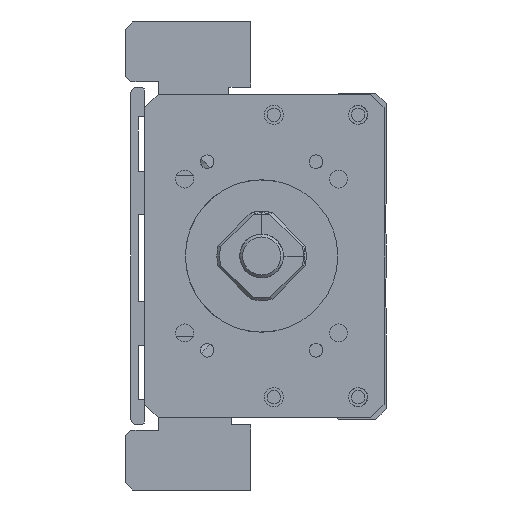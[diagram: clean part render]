
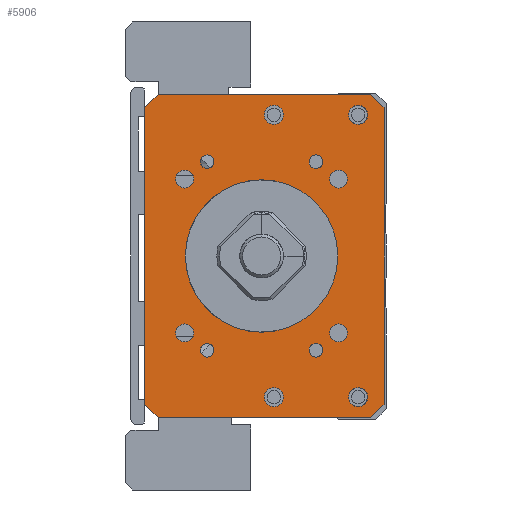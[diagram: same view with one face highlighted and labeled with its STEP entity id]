
A CAD part, left-side view. The second image highlights one B-rep face of the part: STEP entity #5906.
In plain terms, the highlighted planar face has unit normal (-1, 0, 0).
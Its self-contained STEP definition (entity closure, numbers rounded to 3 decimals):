
#4385=FACE_BOUND('',#7420,.T.);
#4386=FACE_BOUND('',#7421,.T.);
#4387=FACE_BOUND('',#7422,.T.);
#4388=FACE_BOUND('',#7423,.T.);
#4389=FACE_BOUND('',#7424,.T.);
#4390=FACE_BOUND('',#7425,.T.);
#4391=FACE_BOUND('',#7426,.T.);
#4392=FACE_BOUND('',#7427,.T.);
#4393=FACE_BOUND('',#7428,.T.);
#4394=FACE_BOUND('',#7429,.T.);
#4395=FACE_BOUND('',#7430,.T.);
#4396=FACE_BOUND('',#7431,.T.);
#4397=FACE_BOUND('',#7432,.T.);
#4398=FACE_BOUND('',#7433,.T.);
#4928=CIRCLE('',#16683,14.);
#4937=CIRCLE('',#16694,1.65);
#4938=CIRCLE('',#16695,1.65);
#4939=CIRCLE('',#16696,1.65);
#4940=CIRCLE('',#16697,1.65);
#4941=CIRCLE('',#16698,1.25);
#4942=CIRCLE('',#16699,1.75);
#4943=CIRCLE('',#16700,1.25);
#4944=CIRCLE('',#16701,1.75);
#4945=CIRCLE('',#16702,1.25);
#4946=CIRCLE('',#16703,1.75);
#4947=CIRCLE('',#16704,1.75);
#4948=CIRCLE('',#16705,1.25);
#5325=PLANE('',#16706);
#5906=ADVANCED_FACE('',(#4385,#4386,#4387,#4388,#4389,#4390,#4391,#4392,
#4393,#4394,#4395,#4396,#4397,#4398),#5325,.F.);
#7420=EDGE_LOOP('',(#9034));
#7421=EDGE_LOOP('',(#9035));
#7422=EDGE_LOOP('',(#9036));
#7423=EDGE_LOOP('',(#9037));
#7424=EDGE_LOOP('',(#9038));
#7425=EDGE_LOOP('',(#9039));
#7426=EDGE_LOOP('',(#9040));
#7427=EDGE_LOOP('',(#9041));
#7428=EDGE_LOOP('',(#9042));
#7429=EDGE_LOOP('',(#9043,#9044,#9045,#9046,#9047,#9048,#9049,#9050));
#7430=EDGE_LOOP('',(#9051));
#7431=EDGE_LOOP('',(#9052));
#7432=EDGE_LOOP('',(#9053));
#7433=EDGE_LOOP('',(#9054));
#9034=ORIENTED_EDGE('',*,*,#13160,.F.);
#9035=ORIENTED_EDGE('',*,*,#13161,.F.);
#9036=ORIENTED_EDGE('',*,*,#13162,.F.);
#9037=ORIENTED_EDGE('',*,*,#13163,.F.);
#9038=ORIENTED_EDGE('',*,*,#13164,.F.);
#9039=ORIENTED_EDGE('',*,*,#13165,.T.);
#9040=ORIENTED_EDGE('',*,*,#13166,.F.);
#9041=ORIENTED_EDGE('',*,*,#13167,.F.);
#9042=ORIENTED_EDGE('',*,*,#13168,.F.);
#9043=ORIENTED_EDGE('',*,*,#13157,.T.);
#9044=ORIENTED_EDGE('',*,*,#13169,.T.);
#9045=ORIENTED_EDGE('',*,*,#13170,.F.);
#9046=ORIENTED_EDGE('',*,*,#13171,.T.);
#9047=ORIENTED_EDGE('',*,*,#13172,.F.);
#9048=ORIENTED_EDGE('',*,*,#13173,.T.);
#9049=ORIENTED_EDGE('',*,*,#13174,.T.);
#9050=ORIENTED_EDGE('',*,*,#13175,.T.);
#9051=ORIENTED_EDGE('',*,*,#13176,.F.);
#9052=ORIENTED_EDGE('',*,*,#13177,.F.);
#9053=ORIENTED_EDGE('',*,*,#13178,.F.);
#9054=ORIENTED_EDGE('',*,*,#13137,.F.);
#11898=VERTEX_POINT('',#21732);
#11918=VERTEX_POINT('',#21808);
#11919=VERTEX_POINT('',#21810);
#11921=VERTEX_POINT('',#21816);
#11922=VERTEX_POINT('',#21818);
#11923=VERTEX_POINT('',#21820);
#11924=VERTEX_POINT('',#21822);
#11925=VERTEX_POINT('',#21824);
#11926=VERTEX_POINT('',#21826);
#11927=VERTEX_POINT('',#21828);
#11928=VERTEX_POINT('',#21830);
#11929=VERTEX_POINT('',#21832);
#11930=VERTEX_POINT('',#21834);
#11931=VERTEX_POINT('',#21836);
#11932=VERTEX_POINT('',#21838);
#11933=VERTEX_POINT('',#21840);
#11934=VERTEX_POINT('',#21842);
#11935=VERTEX_POINT('',#21844);
#11936=VERTEX_POINT('',#21847);
#11937=VERTEX_POINT('',#21849);
#11938=VERTEX_POINT('',#21851);
#13137=EDGE_CURVE('',#11898,#11898,#4928,.T.);
#13157=EDGE_CURVE('',#11919,#11918,#14618,.T.);
#13160=EDGE_CURVE('',#11921,#11921,#4937,.T.);
#13161=EDGE_CURVE('',#11922,#11922,#4938,.T.);
#13162=EDGE_CURVE('',#11923,#11923,#4939,.T.);
#13163=EDGE_CURVE('',#11924,#11924,#4940,.T.);
#13164=EDGE_CURVE('',#11925,#11925,#4941,.T.);
#13165=EDGE_CURVE('',#11926,#11926,#4942,.T.);
#13166=EDGE_CURVE('',#11927,#11927,#4943,.T.);
#13167=EDGE_CURVE('',#11928,#11928,#4944,.T.);
#13168=EDGE_CURVE('',#11929,#11929,#4945,.T.);
#13169=EDGE_CURVE('',#11918,#11930,#14620,.T.);
#13170=EDGE_CURVE('',#11931,#11930,#14621,.T.);
#13171=EDGE_CURVE('',#11931,#11932,#14622,.T.);
#13172=EDGE_CURVE('',#11933,#11932,#14623,.T.);
#13173=EDGE_CURVE('',#11933,#11934,#14624,.T.);
#13174=EDGE_CURVE('',#11934,#11935,#14625,.T.);
#13175=EDGE_CURVE('',#11935,#11919,#14626,.T.);
#13176=EDGE_CURVE('',#11936,#11936,#4946,.T.);
#13177=EDGE_CURVE('',#11937,#11937,#4947,.T.);
#13178=EDGE_CURVE('',#11938,#11938,#4948,.T.);
#14618=LINE('',#21809,#15583);
#14620=LINE('',#21833,#15585);
#14621=LINE('',#21835,#15586);
#14622=LINE('',#21837,#15587);
#14623=LINE('',#21839,#15588);
#14624=LINE('',#21841,#15589);
#14625=LINE('',#21843,#15590);
#14626=LINE('',#21845,#15591);
#15583=VECTOR('',#18299,1.);
#15585=VECTOR('',#18323,1.);
#15586=VECTOR('',#18324,1.);
#15587=VECTOR('',#18325,1.);
#15588=VECTOR('',#18326,1.);
#15589=VECTOR('',#18327,1.);
#15590=VECTOR('',#18328,1.);
#15591=VECTOR('',#18329,1.);
#16683=AXIS2_PLACEMENT_3D('',#21731,#18273,#18274);
#16694=AXIS2_PLACEMENT_3D('',#21815,#18305,#18306);
#16695=AXIS2_PLACEMENT_3D('',#21817,#18307,#18308);
#16696=AXIS2_PLACEMENT_3D('',#21819,#18309,#18310);
#16697=AXIS2_PLACEMENT_3D('',#21821,#18311,#18312);
#16698=AXIS2_PLACEMENT_3D('',#21823,#18313,#18314);
#16699=AXIS2_PLACEMENT_3D('',#21825,#18315,#18316);
#16700=AXIS2_PLACEMENT_3D('',#21827,#18317,#18318);
#16701=AXIS2_PLACEMENT_3D('',#21829,#18319,#18320);
#16702=AXIS2_PLACEMENT_3D('',#21831,#18321,#18322);
#16703=AXIS2_PLACEMENT_3D('',#21846,#18330,#18331);
#16704=AXIS2_PLACEMENT_3D('',#21848,#18332,#18333);
#16705=AXIS2_PLACEMENT_3D('',#21850,#18334,#18335);
#16706=AXIS2_PLACEMENT_3D('',#21852,#18336,#18337);
#18273=DIRECTION('',(-1.,0.,0.));
#18274=DIRECTION('',(0.,1.,0.));
#18299=DIRECTION('',(0.,0.,-1.));
#18305=DIRECTION('',(-1.,0.,0.));
#18306=DIRECTION('',(0.,0.,1.));
#18307=DIRECTION('',(-1.,0.,0.));
#18308=DIRECTION('',(0.,0.,1.));
#18309=DIRECTION('',(-1.,0.,0.));
#18310=DIRECTION('',(0.,0.,1.));
#18311=DIRECTION('',(-1.,0.,0.));
#18312=DIRECTION('',(0.,0.,1.));
#18313=DIRECTION('',(-1.,0.,0.));
#18314=DIRECTION('',(0.,1.,0.));
#18315=DIRECTION('',(1.,0.,0.));
#18316=DIRECTION('',(0.,0.,1.));
#18317=DIRECTION('',(-1.,0.,0.));
#18318=DIRECTION('',(0.,1.,0.));
#18319=DIRECTION('',(-1.,0.,0.));
#18320=DIRECTION('',(0.,0.,1.));
#18321=DIRECTION('',(-1.,0.,0.));
#18322=DIRECTION('',(0.,1.,0.));
#18323=DIRECTION('',(0.,-0.707,-0.707));
#18324=DIRECTION('',(0.,1.,0.));
#18325=DIRECTION('',(0.,-0.707,0.707));
#18326=DIRECTION('',(0.,0.,-1.));
#18327=DIRECTION('',(0.,0.707,0.707));
#18328=DIRECTION('',(0.,1.,0.));
#18329=DIRECTION('',(0.,0.707,-0.707));
#18330=DIRECTION('',(-1.,0.,0.));
#18331=DIRECTION('',(0.,0.,1.));
#18332=DIRECTION('',(-1.,0.,0.));
#18333=DIRECTION('',(0.,0.,1.));
#18334=DIRECTION('',(-1.,0.,0.));
#18335=DIRECTION('',(0.,1.,0.));
#18336=DIRECTION('',(1.,0.,0.));
#18337=DIRECTION('',(0.,1.,0.));
#21731=CARTESIAN_POINT('',(-211.,0.,-100.));
#21732=CARTESIAN_POINT('',(-211.,14.,-100.));
#21808=CARTESIAN_POINT('',(-211.,21.499,-127.25));
#21809=CARTESIAN_POINT('',(-211.,21.499,-70.25));
#21810=CARTESIAN_POINT('',(-211.,21.499,-72.75));
#21815=CARTESIAN_POINT('',(-211.,14.142,-85.858));
#21816=CARTESIAN_POINT('',(-211.,14.142,-84.208));
#21817=CARTESIAN_POINT('',(-211.,-14.142,-85.858));
#21818=CARTESIAN_POINT('',(-211.,-14.142,-84.208));
#21819=CARTESIAN_POINT('',(-211.,14.142,-114.142));
#21820=CARTESIAN_POINT('',(-211.,14.142,-112.492));
#21821=CARTESIAN_POINT('',(-211.,-14.142,-114.142));
#21822=CARTESIAN_POINT('',(-211.,-14.142,-112.492));
#21823=CARTESIAN_POINT('',(-211.,-10.,-117.321));
#21824=CARTESIAN_POINT('',(-211.,-8.75,-117.321));
#21825=CARTESIAN_POINT('',(-211.,-2.25,-125.936));
#21826=CARTESIAN_POINT('',(-211.,-2.25,-124.186));
#21827=CARTESIAN_POINT('',(-211.,10.,-82.679));
#21828=CARTESIAN_POINT('',(-211.,11.25,-82.679));
#21829=CARTESIAN_POINT('',(-211.,-2.25,-74.064));
#21830=CARTESIAN_POINT('',(-211.,-2.25,-72.314));
#21831=CARTESIAN_POINT('',(-211.,10.,-117.321));
#21832=CARTESIAN_POINT('',(-211.,11.25,-117.321));
#21833=CARTESIAN_POINT('',(-211.,18.999,-129.75));
#21834=CARTESIAN_POINT('',(-211.,18.999,-129.75));
#21835=CARTESIAN_POINT('',(-211.,-22.501,-129.75));
#21836=CARTESIAN_POINT('',(-211.,-20.001,-129.75));
#21837=CARTESIAN_POINT('',(-211.,-22.501,-127.25));
#21838=CARTESIAN_POINT('',(-211.,-22.501,-127.25));
#21839=CARTESIAN_POINT('',(-211.,-22.501,-70.25));
#21840=CARTESIAN_POINT('',(-211.,-22.501,-72.75));
#21841=CARTESIAN_POINT('',(-211.,-22.501,-72.75));
#21842=CARTESIAN_POINT('',(-211.,-20.001,-70.25));
#21843=CARTESIAN_POINT('',(-211.,-22.501,-70.25));
#21844=CARTESIAN_POINT('',(-211.,18.999,-70.25));
#21845=CARTESIAN_POINT('',(-211.,18.999,-70.25));
#21846=CARTESIAN_POINT('',(-211.,-17.75,-74.064));
#21847=CARTESIAN_POINT('',(-211.,-17.75,-72.314));
#21848=CARTESIAN_POINT('',(-211.,-17.75,-125.936));
#21849=CARTESIAN_POINT('',(-211.,-17.75,-124.186));
#21850=CARTESIAN_POINT('',(-211.,-10.,-82.679));
#21851=CARTESIAN_POINT('',(-211.,-8.75,-82.679));
#21852=CARTESIAN_POINT('',(-211.,-22.501,-70.25));
